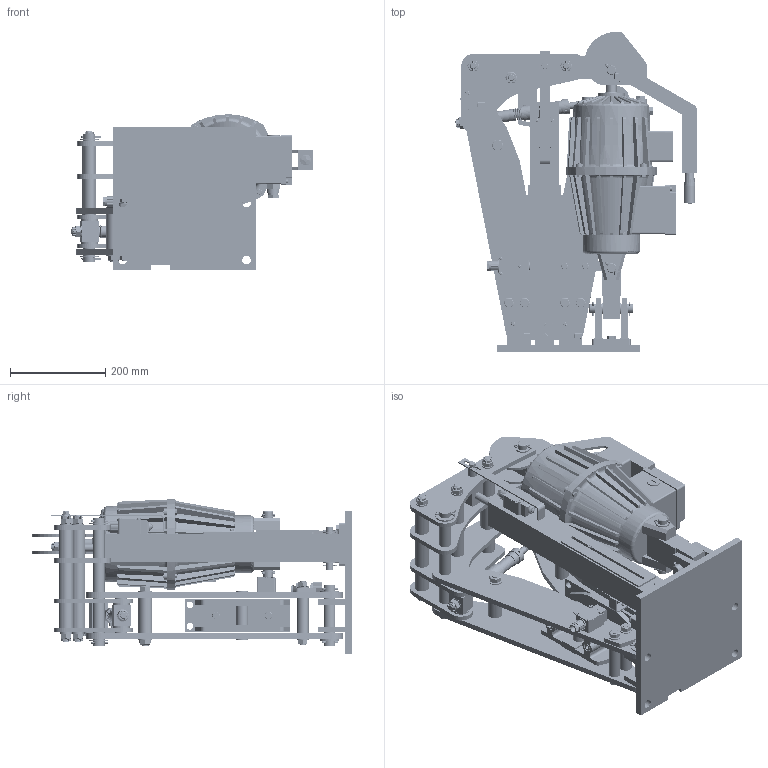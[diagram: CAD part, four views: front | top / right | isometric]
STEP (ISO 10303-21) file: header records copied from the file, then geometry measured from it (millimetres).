
FILE_DESCRIPTION((''),'2;1');
FILE_NAME('4459_235_511_E00001','2017-04-10T',('bahs'),(''),'CREO PARAMETRIC BY PTC INC, 2016130','CREO PARAMETRIC BY PTC INC, 2016130','');
FILE_SCHEMA(('CONFIG_CONTROL_DESIGN'));
Products named in the file (1): 4459_235_511_E00001
Bounding box: 506.91 x 671 x 326 mm (x, y, z)
Volume: 293638.7 mm3; surface area: 2516742.9 mm2
Topology: 11 solids, 688 shells, 4649 faces, 16330 edges, 11412 vertices
Faces by surface type: plane 2012, cylinder 1589, cone 830, torus 199, bspline 18, sphere 1
Entity records: 280718 total; most frequent: CARTESIAN_POINT 96659, ORIENTED_EDGE 26690, DIRECTION 24422, PRESENTATION_STYLE_ASSIGNMENT 16948, STYLED_ITEM 16948, CURVE_STYLE 16260, EDGE_CURVE 16260, VERTEX_POINT 11380
